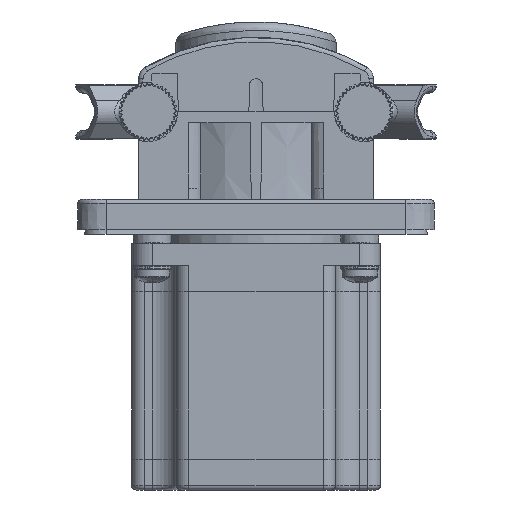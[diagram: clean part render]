
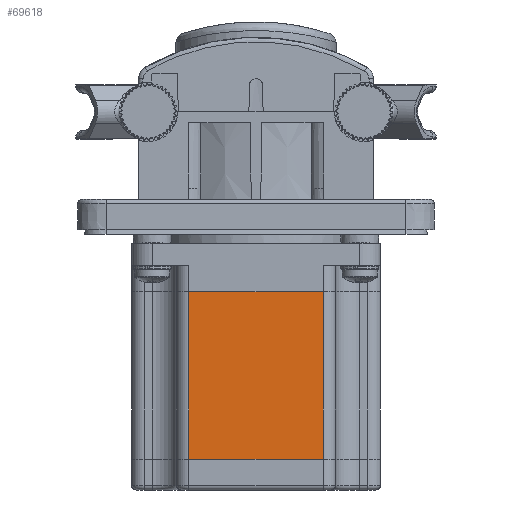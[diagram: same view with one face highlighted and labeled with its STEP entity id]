
A CAD part, front view. The second image highlights one B-rep face of the part: STEP entity #69618.
In plain terms, the highlighted planar face has unit normal (0, -1, 0).
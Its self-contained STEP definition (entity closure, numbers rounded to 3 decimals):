
#2978 = VERTEX_POINT ( 'NONE', #110769 ) ;
#3964 = LINE ( 'NONE', #152615, #96477 ) ;
#4461 = EDGE_CURVE ( 'NONE', #44224, #31784, #149895, .T. ) ;
#10605 = ORIENTED_EDGE ( 'NONE', *, *, #4461, .F. ) ;
#25665 = EDGE_CURVE ( 'NONE', #122554, #2978, #3964, .T. ) ;
#31784 = VERTEX_POINT ( 'NONE', #52109 ) ;
#32441 = DIRECTION ( 'NONE',  ( 0., 0., -1. ) ) ;
#33763 = CARTESIAN_POINT ( 'NONE',  ( -15.25, -28.2, -59. ) ) ;
#44224 = VERTEX_POINT ( 'NONE', #53673 ) ;
#52109 = CARTESIAN_POINT ( 'NONE',  ( 15.25, -28.2, -21. ) ) ;
#53673 = CARTESIAN_POINT ( 'NONE',  ( -15.25, -28.2, -21. ) ) ;
#53674 = DIRECTION ( 'NONE',  ( 0., -1., 0. ) ) ;
#57073 = DIRECTION ( 'NONE',  ( 0., 0., -1. ) ) ;
#60708 = EDGE_CURVE ( 'NONE', #31784, #2978, #92573, .T. ) ;
#62908 = CARTESIAN_POINT ( 'NONE',  ( -28.2, -28.2, -21. ) ) ;
#69309 = LINE ( 'NONE', #118808, #152183 ) ;
#69618 = ADVANCED_FACE ( 'NONE', ( #89468 ), #76536, .T. ) ;
#69903 = VECTOR ( 'NONE', #32441, 1000. ) ;
#72246 = EDGE_CURVE ( 'NONE', #44224, #122554, #69309, .T. ) ;
#76536 = PLANE ( 'NONE',  #146319 ) ;
#89468 = FACE_OUTER_BOUND ( 'NONE', #114013, .T. ) ;
#92573 = LINE ( 'NONE', #118515, #69903 ) ;
#96477 = VECTOR ( 'NONE', #102173, 1000. ) ;
#102173 = DIRECTION ( 'NONE',  ( 1., 0., 0. ) ) ;
#104339 = ORIENTED_EDGE ( 'NONE', *, *, #60708, .F. ) ;
#110769 = CARTESIAN_POINT ( 'NONE',  ( 15.25, -28.2, -59. ) ) ;
#114013 = EDGE_LOOP ( 'NONE', ( #134342, #115356, #104339, #10605 ) ) ;
#115356 = ORIENTED_EDGE ( 'NONE', *, *, #25665, .T. ) ;
#118515 = CARTESIAN_POINT ( 'NONE',  ( 15.25, -28.2, 70.559 ) ) ;
#118808 = CARTESIAN_POINT ( 'NONE',  ( -15.25, -28.2, 70.559 ) ) ;
#122554 = VERTEX_POINT ( 'NONE', #33763 ) ;
#123898 = DIRECTION ( 'NONE',  ( 1., 0., 0. ) ) ;
#131912 = VECTOR ( 'NONE', #123898, 1000. ) ;
#134342 = ORIENTED_EDGE ( 'NONE', *, *, #72246, .T. ) ;
#139858 = CARTESIAN_POINT ( 'NONE',  ( -28.2, -28.2, -66. ) ) ;
#140645 = DIRECTION ( 'NONE',  ( 1., 0., 0. ) ) ;
#146319 = AXIS2_PLACEMENT_3D ( 'NONE', #139858, #53674, #140645 ) ;
#149895 = LINE ( 'NONE', #62908, #131912 ) ;
#152183 = VECTOR ( 'NONE', #57073, 1000. ) ;
#152615 = CARTESIAN_POINT ( 'NONE',  ( -28.2, -28.2, -59. ) ) ;
